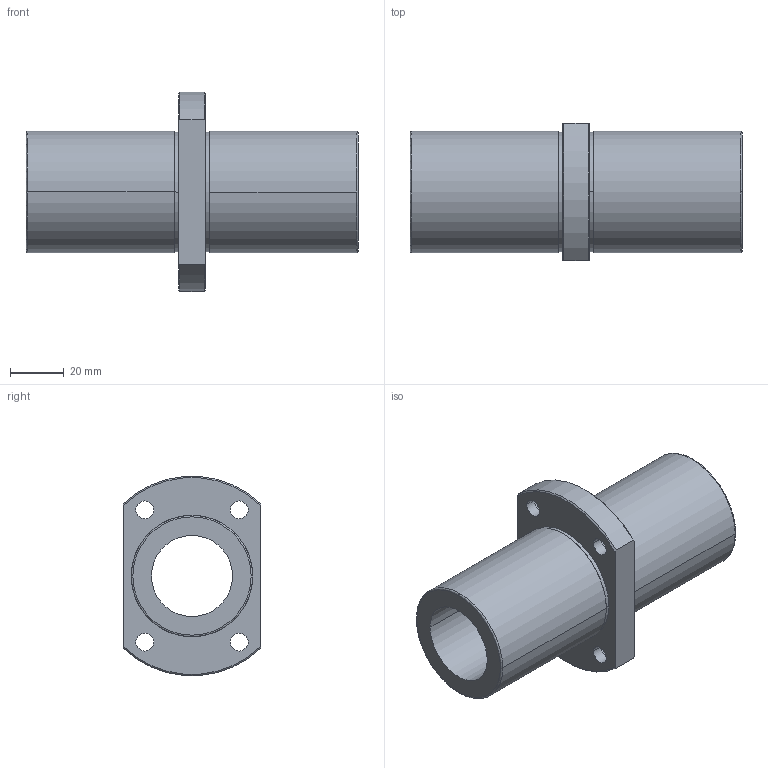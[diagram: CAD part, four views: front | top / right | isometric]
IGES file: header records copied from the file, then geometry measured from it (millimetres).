
Start section: 3D InterOp IGES (Version 21 0 1), Spatial Corp. Copyright (c) 1999-2007.
Global section: file name: NFCO-30VLUU.igs; native system: Spatial Corp.; preprocessor: 3D InterOp GENERIC/IGES 3.0; author: Noname; organization: Noname; date: 20220308.143403; units: millimetre
Bounding box: 123 x 51 x 73.74 mm (x, y, z)
Surface area: 36164.9 mm2 (no closed solid volume)
Topology: 0 solids, 0 shells, 48 faces, 228 edges, 228 vertices
Faces by surface type: revolution 36, extrusion 12
